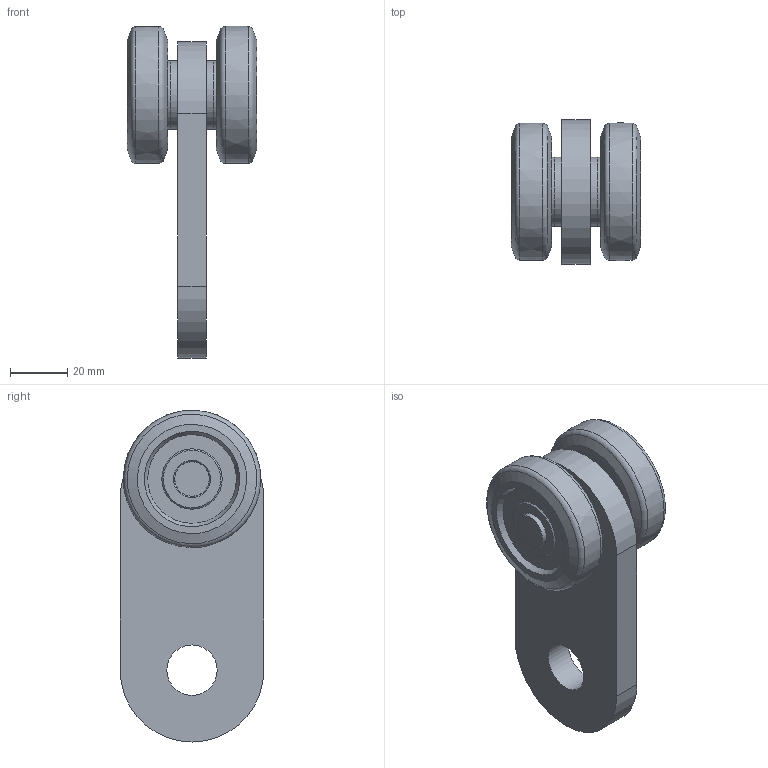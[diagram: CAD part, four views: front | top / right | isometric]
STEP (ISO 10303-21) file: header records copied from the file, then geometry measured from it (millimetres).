
FILE_DESCRIPTION(/* description */ ('Bolzen'),/* implementation_level */ '2;1');
FILE_NAME(/* name */ 'Q:\sge-ma\Produktmanagement-STB\STB\Workspace\TraceParts\Einfachrolle zum Einhängen\010336815.stp',/* time_stamp */ '2016-07-18T08:12:04+02:00',/* author */ ('avschreier'),/* organization */ (''),/* preprocessor_version */ 'ST-DEVELOPER v16.1',/* originating_system */ 'Autodesk Inventor 2016',/* authorisation */ '');
FILE_SCHEMA (('AUTOMOTIVE_DESIGN { 1 0 10303 214 3 1 1 }'));
Length unit declared in the file: millimetre
Products named in the file (5): 000304012; 000303237; 000302067; DIN_EN_ISO_7090-13_en; 010336815
Assembly tree (8 placements, depth 2):
  010336815
    000304012
    000303237  x2
    000302067
    DIN_EN_ISO_7090-13_en  x4
Bounding box: 45 x 50 x 115.5 mm (x, y, z)
Volume: 93758.4 mm3; surface area: 29708.8 mm2
Topology: 8 solids, 8 shells, 66 faces, 115 edges, 73 vertices
Faces by surface type: plane 26, cone 18, cylinder 16, torus 4, bspline 2
Full cylindrical faces by diameter (mm): 12 x3, 12.3 x1, 13 x4, 14 x1, 17.5 x1, 24 x4
Entity records: 978 total; most frequent: DIRECTION 178, CARTESIAN_POINT 164, ORIENTED_EDGE 92, AXIS2_PLACEMENT_3D 85, EDGE_LOOP 67, EDGE_CURVE 46, VERTEX_POINT 41, CIRCLE 37
